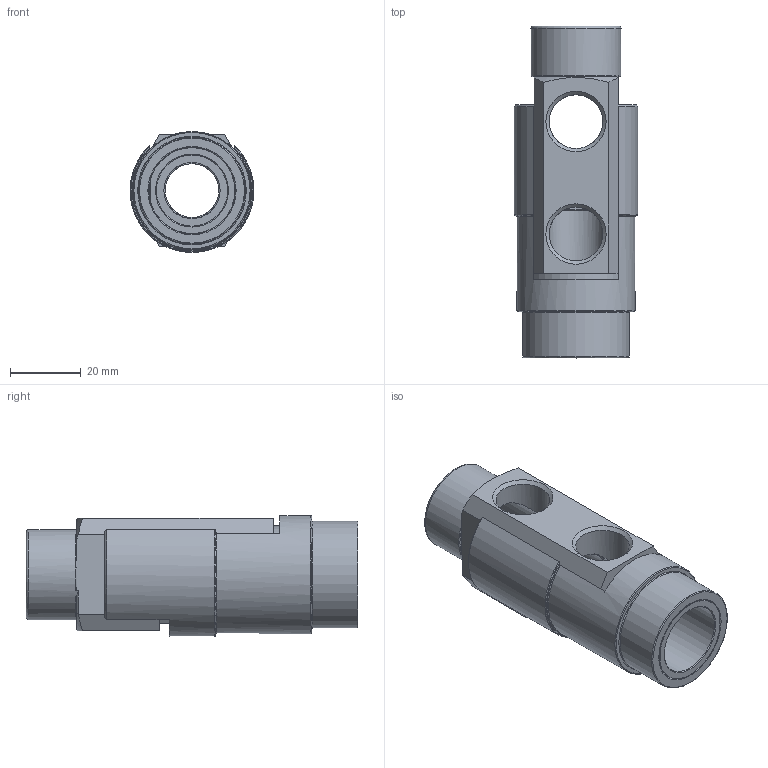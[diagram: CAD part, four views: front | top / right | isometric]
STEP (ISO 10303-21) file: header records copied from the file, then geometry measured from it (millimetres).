
FILE_DESCRIPTION(/* description */ (''),/* implementation_level */ '2;1');
FILE_NAME(/* name */ 'C:/Users/drich/Desktop/CAD FILES/SINCE 1-10-20/Rear Load Cascades/Quick Coupler Type/Head Only/SC121H-6-RL v2.step',/* time_stamp */ '2020-01-12T14:45:35-06:00',/* author */ (''),/* organization */ (''),/* preprocessor_version */ 'ST-DEVELOPER v18',/* originating_system */ 'Autodesk Translation Framework v8.12.0.6',/* authorisation */ '');
FILE_SCHEMA (('AUTOMOTIVE_DESIGN { 1 0 10303 214 3 1 1 }'));
Length unit declared in the file: inch
Products named in the file (3): SC121H-6-RL; SC121H-6-RL HEAD; SC121H-4 Sleeve
Assembly tree (2 placements, depth 3):
  SC121H-6-RL
    SC121H-6-RL HEAD
      SC121H-4 Sleeve
Bounding box: 34.92 x 93.65 x 34.12 mm (x, y, z)
Volume: 43953 mm3; surface area: 26257.8 mm2
Topology: 2 solids, 2 shells, 79 faces, 227 edges, 155 vertices
Faces by surface type: plane 35, cylinder 20, cone 13, torus 11
Full cylindrical faces by diameter (mm): 15.173 x4, 15.875 x1, 18.901 x1, 20.066 x1, 24.384 x1, 25.4 x1, 27.432 x1, 30.15 x1, 33.325 x1
Entity records: 2975 total; most frequent: CARTESIAN_POINT 786, ORIENTED_EDGE 454, DIRECTION 453, EDGE_CURVE 227, AXIS2_PLACEMENT_3D 183, VERTEX_POINT 155, CIRCLE 96, EDGE_LOOP 92
